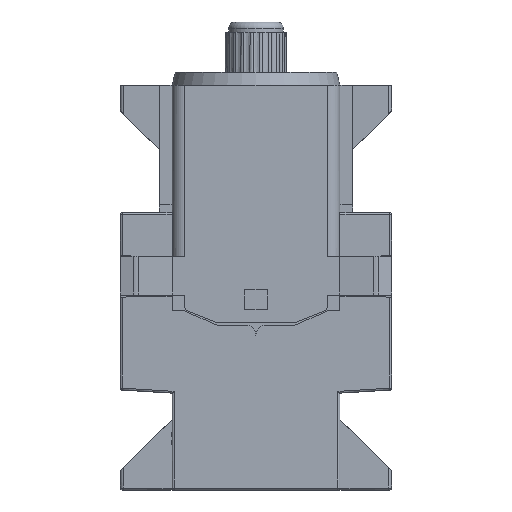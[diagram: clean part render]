
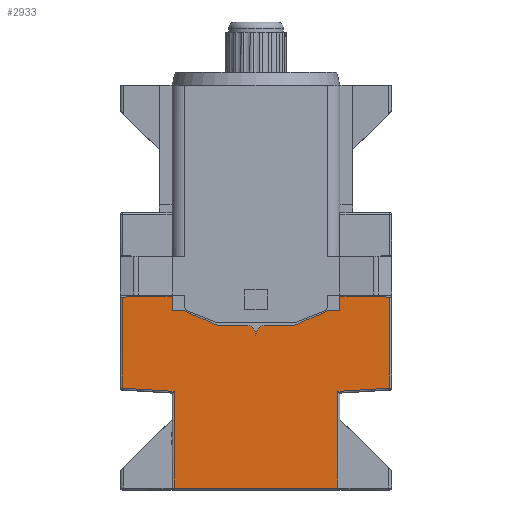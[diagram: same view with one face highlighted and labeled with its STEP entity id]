
A CAD part, front view. The second image highlights one B-rep face of the part: STEP entity #2933.
In plain terms, the highlighted planar face has unit normal (0, -1, 0).
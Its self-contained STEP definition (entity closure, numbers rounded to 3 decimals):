
#2933=ADVANCED_FACE('',(#16386),#16388,.F.);
#16386=FACE_BOUND('',#16387,.T.);
#16387=EDGE_LOOP('',(#33101,#33102,#33103,#33104,#33105,#33106,#33107,#33108,#33109,
#33110,#33111,#33112,#33113,#33114,#33115,#33116,#33117,#33118,#33119,#33120,#33121));
#16388=PLANE('',#16389);
#16389=AXIS2_PLACEMENT_3D('',#16390,#16391,#16392);
#16390=CARTESIAN_POINT('',(21.,-21.,-21.7));
#16391=DIRECTION('',(0.,1.,0.));
#16392=DIRECTION('',(1.,0.,0.));
#33101=ORIENTED_EDGE('',*,*,#40209,.T.);
#33102=ORIENTED_EDGE('',*,*,#40983,.F.);
#33103=ORIENTED_EDGE('',*,*,#40998,.F.);
#33104=ORIENTED_EDGE('',*,*,#40999,.T.);
#33105=ORIENTED_EDGE('',*,*,#41000,.T.);
#33106=ORIENTED_EDGE('',*,*,#41001,.F.);
#33107=ORIENTED_EDGE('',*,*,#41002,.F.);
#33108=ORIENTED_EDGE('',*,*,#41003,.F.);
#33109=ORIENTED_EDGE('',*,*,#41004,.F.);
#33110=ORIENTED_EDGE('',*,*,#41005,.F.);
#33111=ORIENTED_EDGE('',*,*,#41006,.T.);
#33112=ORIENTED_EDGE('',*,*,#41007,.T.);
#33113=ORIENTED_EDGE('',*,*,#41008,.T.);
#33114=ORIENTED_EDGE('',*,*,#41009,.T.);
#33115=ORIENTED_EDGE('',*,*,#41010,.T.);
#33116=ORIENTED_EDGE('',*,*,#41011,.T.);
#33117=ORIENTED_EDGE('',*,*,#41012,.T.);
#33118=ORIENTED_EDGE('',*,*,#41013,.T.);
#33119=ORIENTED_EDGE('',*,*,#41014,.T.);
#33120=ORIENTED_EDGE('',*,*,#41015,.T.);
#33121=ORIENTED_EDGE('',*,*,#41016,.F.);
#40209=EDGE_CURVE('',#45121,#45122,#45123,.F.);
#40983=EDGE_CURVE('',#46460,#45122,#46462,.T.);
#40998=EDGE_CURVE('',#46485,#46460,#46486,.T.);
#40999=EDGE_CURVE('',#46485,#46487,#46488,.T.);
#41000=EDGE_CURVE('',#46487,#46489,#46490,.F.);
#41001=EDGE_CURVE('',#46491,#46489,#46492,.T.);
#41002=EDGE_CURVE('',#46493,#46491,#46494,.T.);
#41003=EDGE_CURVE('',#46495,#46493,#46496,.T.);
#41004=EDGE_CURVE('',#46497,#46495,#46498,.T.);
#41005=EDGE_CURVE('',#46499,#46497,#46500,.T.);
#41006=EDGE_CURVE('',#46499,#46501,#46502,.T.);
#41007=EDGE_CURVE('',#46501,#46503,#46504,.T.);
#41008=EDGE_CURVE('',#46503,#46505,#46506,.T.);
#41009=EDGE_CURVE('',#46505,#46507,#46508,.T.);
#41010=EDGE_CURVE('',#46507,#46509,#46510,.T.);
#41011=EDGE_CURVE('',#46509,#46511,#46512,.T.);
#41012=EDGE_CURVE('',#46511,#46513,#46514,.F.);
#41013=EDGE_CURVE('',#46513,#46515,#46516,.T.);
#41014=EDGE_CURVE('',#46515,#46517,#46518,.T.);
#41015=EDGE_CURVE('',#46517,#46519,#46520,.T.);
#41016=EDGE_CURVE('',#45121,#46519,#46521,.T.);
#45121=VERTEX_POINT('',#55304);
#45122=VERTEX_POINT('',#55305);
#45123=LINE('',#55306,#55307);
#46460=VERTEX_POINT('',#59666);
#46462=LINE('',#59671,#59672);
#46485=VERTEX_POINT('',#59728);
#46486=LINE('',#59729,#59730);
#46487=VERTEX_POINT('',#59732);
#46488=LINE('',#59733,#59734);
#46489=VERTEX_POINT('',#59736);
#46490=LINE('',#59737,#59738);
#46491=VERTEX_POINT('',#59740);
#46492=LINE('',#59741,#59742);
#46493=VERTEX_POINT('',#59744);
#46494=LINE('',#59745,#59746);
#46495=VERTEX_POINT('',#59748);
#46496=LINE('',#59749,#59750);
#46497=VERTEX_POINT('',#59752);
#46498=LINE('',#59753,#59754);
#46499=VERTEX_POINT('',#59756);
#46500=CIRCLE('',#59757,1.5);
#46501=VERTEX_POINT('',#59761);
#46502=CIRCLE('',#59762,1.5);
#46503=VERTEX_POINT('',#59766);
#46504=LINE('',#59767,#59768);
#46505=VERTEX_POINT('',#59770);
#46506=LINE('',#59771,#59772);
#46507=VERTEX_POINT('',#59774);
#46508=LINE('',#59775,#59776);
#46509=VERTEX_POINT('',#59778);
#46510=LINE('',#59779,#59780);
#46511=VERTEX_POINT('',#59782);
#46512=LINE('',#59783,#59784);
#46513=VERTEX_POINT('',#59786);
#46514=LINE('',#59787,#59788);
#46515=VERTEX_POINT('',#59790);
#46516=LINE('',#59791,#59792);
#46517=VERTEX_POINT('',#59794);
#46518=LINE('',#59795,#59796);
#46519=VERTEX_POINT('',#59798);
#46520=LINE('',#59799,#59800);
#46521=LINE('',#59802,#59803);
#55304=CARTESIAN_POINT('',(12.7,-21.,-21.4));
#55305=CARTESIAN_POINT('',(12.7,-21.,-6.418));
#55306=CARTESIAN_POINT('',(12.7,-21.,-6.418));
#55307=VECTOR('',#55308,1.);
#55308=DIRECTION('',(0.,0.,-1.));
#59666=CARTESIAN_POINT('',(20.7,-21.,-5.918));
#59671=CARTESIAN_POINT('',(20.7,-21.,-5.918));
#59672=VECTOR('',#59673,1.);
#59673=DIRECTION('',(-0.998,0.,-0.062));
#59728=CARTESIAN_POINT('',(20.7,-21.,8.168));
#59729=CARTESIAN_POINT('',(20.7,-21.,8.168));
#59730=VECTOR('',#59731,1.);
#59731=DIRECTION('',(0.,0.,-1.));
#59732=CARTESIAN_POINT('',(18.5,-21.,8.3));
#59733=CARTESIAN_POINT('',(20.7,-21.,8.168));
#59734=VECTOR('',#59735,1.);
#59735=DIRECTION('',(-0.998,0.,0.06));
#59736=CARTESIAN_POINT('',(13.,-21.,8.3));
#59737=CARTESIAN_POINT('',(13.,-21.,8.3));
#59738=VECTOR('',#59739,1.);
#59739=DIRECTION('',(1.,0.,0.));
#59740=CARTESIAN_POINT('',(13.,-21.,6.1));
#59741=CARTESIAN_POINT('',(13.,-21.,6.1));
#59742=VECTOR('',#59743,1.);
#59743=DIRECTION('',(0.,0.,1.));
#59744=CARTESIAN_POINT('',(11.2,-21.,6.1));
#59745=CARTESIAN_POINT('',(11.2,-21.,6.1));
#59746=VECTOR('',#59747,1.);
#59747=DIRECTION('',(1.,0.,0.));
#59748=CARTESIAN_POINT('',(6.,-21.,3.8));
#59749=CARTESIAN_POINT('',(6.,-21.,3.8));
#59750=VECTOR('',#59751,1.);
#59751=DIRECTION('',(0.915,0.,0.405));
#59752=CARTESIAN_POINT('',(1.5,-21.,3.8));
#59753=CARTESIAN_POINT('',(1.5,-21.,3.8));
#59754=VECTOR('',#59755,1.);
#59755=DIRECTION('',(1.,0.,0.));
#59756=CARTESIAN_POINT('',(0.,-21.,2.3));
#59757=AXIS2_PLACEMENT_3D('',#59758,#59759,#59760);
#59758=CARTESIAN_POINT('',(1.5,-21.,2.3));
#59759=DIRECTION('',(0.,1.,0.));
#59760=DIRECTION('',(-1.,0.,0.));
#59761=CARTESIAN_POINT('',(-1.5,-21.,3.8));
#59762=AXIS2_PLACEMENT_3D('',#59763,#59764,#59765);
#59763=CARTESIAN_POINT('',(-1.5,-21.,2.3));
#59764=DIRECTION('',(0.,-1.,0.));
#59765=DIRECTION('',(1.,0.,0.));
#59766=CARTESIAN_POINT('',(-6.,-21.,3.8));
#59767=CARTESIAN_POINT('',(-1.5,-21.,3.8));
#59768=VECTOR('',#59769,1.);
#59769=DIRECTION('',(-1.,0.,0.));
#59770=CARTESIAN_POINT('',(-11.2,-21.,6.1));
#59771=CARTESIAN_POINT('',(-6.,-21.,3.8));
#59772=VECTOR('',#59773,1.);
#59773=DIRECTION('',(-0.915,0.,0.405));
#59774=CARTESIAN_POINT('',(-13.,-21.,6.1));
#59775=CARTESIAN_POINT('',(-11.2,-21.,6.1));
#59776=VECTOR('',#59777,1.);
#59777=DIRECTION('',(-1.,0.,0.));
#59778=CARTESIAN_POINT('',(-13.,-21.,8.3));
#59779=CARTESIAN_POINT('',(-13.,-21.,6.1));
#59780=VECTOR('',#59781,1.);
#59781=DIRECTION('',(0.,0.,1.));
#59782=CARTESIAN_POINT('',(-18.5,-21.,8.3));
#59783=CARTESIAN_POINT('',(-13.,-21.,8.3));
#59784=VECTOR('',#59785,1.);
#59785=DIRECTION('',(-1.,0.,0.));
#59786=CARTESIAN_POINT('',(-20.7,-21.,8.168));
#59787=CARTESIAN_POINT('',(-20.7,-21.,8.168));
#59788=VECTOR('',#59789,1.);
#59789=DIRECTION('',(0.998,0.,0.06));
#59790=CARTESIAN_POINT('',(-20.7,-21.,-5.918));
#59791=CARTESIAN_POINT('',(-20.7,-21.,8.168));
#59792=VECTOR('',#59793,1.);
#59793=DIRECTION('',(0.,0.,-1.));
#59794=CARTESIAN_POINT('',(-12.7,-21.,-6.418));
#59795=CARTESIAN_POINT('',(-20.7,-21.,-5.918));
#59796=VECTOR('',#59797,1.);
#59797=DIRECTION('',(0.998,0.,-0.062));
#59798=CARTESIAN_POINT('',(-12.7,-21.,-21.4));
#59799=CARTESIAN_POINT('',(-12.7,-21.,-6.418));
#59800=VECTOR('',#59801,1.);
#59801=DIRECTION('',(0.,0.,-1.));
#59802=CARTESIAN_POINT('',(12.7,-21.,-21.4));
#59803=VECTOR('',#59804,1.);
#59804=DIRECTION('',(-1.,0.,0.));
